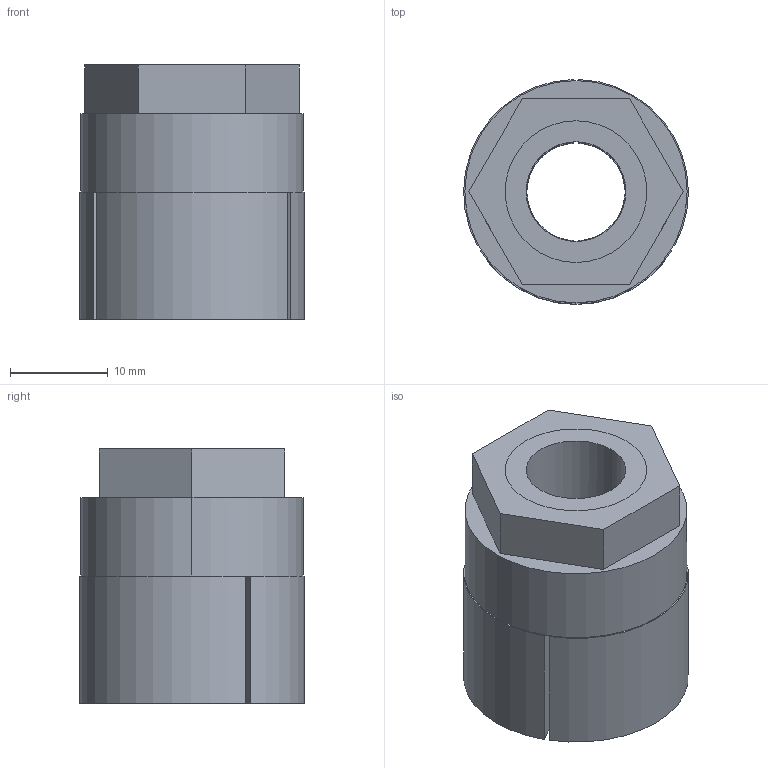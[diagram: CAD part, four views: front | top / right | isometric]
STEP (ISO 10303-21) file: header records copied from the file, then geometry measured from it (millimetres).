
FILE_DESCRIPTION (( 'STEP AP203' ), '1' );
FILE_NAME ('2298K42.step', '2015-04-08T12:35:05', ( '' ), ( '' ), 'SwSTEP 2.0', 'SolidWorks 2010', '' );
FILE_SCHEMA (( 'CONFIG_CONTROL_DESIGN' ));
Length unit declared in the file: millimetre
Products named in the file (1): 2298K42
Bounding box: 23 x 23 x 26 mm (x, y, z)
Volume: 7907.8 mm3; surface area: 7835.6 mm2
Topology: 5 solids, 5 shells, 90 faces, 234 edges, 156 vertices
Faces by surface type: plane 50, cylinder 32, cone 8
Entity records: 2908 total; most frequent: CARTESIAN_POINT 553, DIRECTION 491, ORIENTED_EDGE 468, EDGE_CURVE 234, AXIS2_PLACEMENT_3D 180, VERTEX_POINT 156, VECTOR 131, LINE 131
